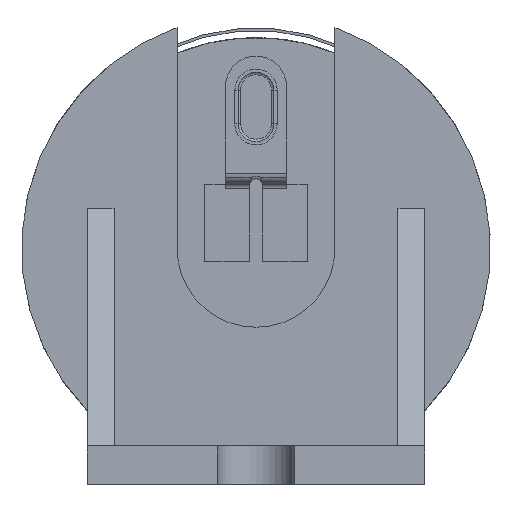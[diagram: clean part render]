
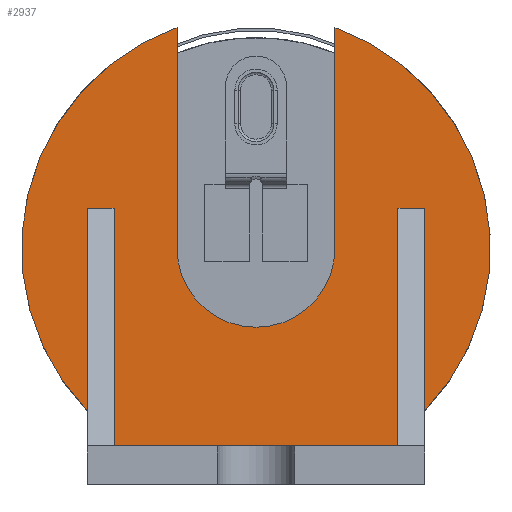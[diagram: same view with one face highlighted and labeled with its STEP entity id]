
A CAD part, left-side view. The second image highlights one B-rep face of the part: STEP entity #2937.
In plain terms, the highlighted planar face has unit normal (-1, 0, 0).
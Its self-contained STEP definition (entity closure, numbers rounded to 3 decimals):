
#385=DIRECTION('',(0.,0.,1.));
#386=VECTOR('',#385,17.183);
#387=CARTESIAN_POINT('',(4.4,6.15,18.388));
#388=LINE('',#387,#386);
#407=DIRECTION('',(0.,0.,-1.));
#408=VECTOR('',#407,17.183);
#409=CARTESIAN_POINT('',(4.4,-6.15,35.57));
#410=LINE('',#409,#408);
#590=DIRECTION('',(0.,0.,-1.));
#591=VECTOR('',#590,15.767);
#592=CARTESIAN_POINT('',(4.4,13.15,21.5));
#593=LINE('',#592,#591);
#602=CARTESIAN_POINT('',(4.4,0.,18.388));
#603=DIRECTION('',(-1.,0.,0.));
#604=DIRECTION('',(0.,1.,0.));
#605=AXIS2_PLACEMENT_3D('',#602,#603,#604);
#607=CARTESIAN_POINT('',(4.4,0.,18.388));
#608=DIRECTION('',(-1.,0.,0.));
#609=DIRECTION('',(0.,-0.721,-0.693));
#610=AXIS2_PLACEMENT_3D('',#607,#608,#609);
#612=CARTESIAN_POINT('',(4.4,0.,18.388));
#613=DIRECTION('',(-1.,0.,0.));
#614=DIRECTION('',(0.,0.337,0.942));
#615=AXIS2_PLACEMENT_3D('',#612,#613,#614);
#625=DIRECTION('',(0.,0.,-1.));
#626=VECTOR('',#625,15.767);
#627=CARTESIAN_POINT('',(4.4,-13.15,21.5));
#628=LINE('',#627,#626);
#687=DIRECTION('',(0.,-1.,0.));
#688=VECTOR('',#687,22.1);
#689=CARTESIAN_POINT('',(4.4,11.05,3.));
#690=LINE('',#689,#688);
#691=DIRECTION('',(0.,-1.,0.));
#692=VECTOR('',#691,2.1);
#693=CARTESIAN_POINT('',(4.4,13.15,21.5));
#694=LINE('',#693,#692);
#699=DIRECTION('',(0.,0.,1.));
#700=VECTOR('',#699,18.5);
#701=CARTESIAN_POINT('',(4.4,11.05,3.));
#702=LINE('',#701,#700);
#711=DIRECTION('',(0.,0.,-1.));
#712=VECTOR('',#711,18.5);
#713=CARTESIAN_POINT('',(4.4,-11.05,21.5));
#714=LINE('',#713,#712);
#715=DIRECTION('',(0.,-1.,0.));
#716=VECTOR('',#715,2.1);
#717=CARTESIAN_POINT('',(4.4,-11.05,21.5));
#718=LINE('',#717,#716);
#1661=CARTESIAN_POINT('',(4.4,6.15,18.388));
#1662=CARTESIAN_POINT('',(4.4,6.15,35.57));
#1663=VERTEX_POINT('',#1661);
#1664=VERTEX_POINT('',#1662);
#1665=CARTESIAN_POINT('',(4.4,13.15,5.733));
#1666=VERTEX_POINT('',#1665);
#1667=CARTESIAN_POINT('',(4.4,13.15,21.5));
#1668=VERTEX_POINT('',#1667);
#1669=CARTESIAN_POINT('',(4.4,11.05,21.5));
#1670=VERTEX_POINT('',#1669);
#1671=CARTESIAN_POINT('',(4.4,11.05,3.));
#1672=VERTEX_POINT('',#1671);
#1673=CARTESIAN_POINT('',(4.4,-11.05,3.));
#1674=VERTEX_POINT('',#1673);
#1675=CARTESIAN_POINT('',(4.4,-11.05,21.5));
#1676=VERTEX_POINT('',#1675);
#1677=CARTESIAN_POINT('',(4.4,-13.15,21.5));
#1678=VERTEX_POINT('',#1677);
#1679=CARTESIAN_POINT('',(4.4,-13.15,5.733));
#1680=VERTEX_POINT('',#1679);
#1681=CARTESIAN_POINT('',(4.4,-6.15,35.57));
#1682=VERTEX_POINT('',#1681);
#1683=CARTESIAN_POINT('',(4.4,-6.15,18.388));
#1684=VERTEX_POINT('',#1683);
#2910=CARTESIAN_POINT('',(4.4,0.,19.285));
#2911=DIRECTION('',(1.,0.,0.));
#2912=DIRECTION('',(0.,1.,0.));
#2913=AXIS2_PLACEMENT_3D('',#2910,#2911,#2912);
#2914=PLANE('',#2913);
#2915=ORIENTED_EDGE('',*,*,#2528,.F.);
#2917=ORIENTED_EDGE('',*,*,#2916,.T.);
#2918=ORIENTED_EDGE('',*,*,#2564,.F.);
#2919=ORIENTED_EDGE('',*,*,#2786,.F.);
#2921=ORIENTED_EDGE('',*,*,#2920,.F.);
#2923=ORIENTED_EDGE('',*,*,#2922,.F.);
#2925=ORIENTED_EDGE('',*,*,#2924,.T.);
#2927=ORIENTED_EDGE('',*,*,#2926,.F.);
#2929=ORIENTED_EDGE('',*,*,#2928,.T.);
#2931=ORIENTED_EDGE('',*,*,#2930,.F.);
#2932=ORIENTED_EDGE('',*,*,#2897,.T.);
#2934=ORIENTED_EDGE('',*,*,#2933,.F.);
#2935=EDGE_LOOP('',(#2915,#2917,#2918,#2919,#2921,#2923,#2925,#2927,#2929,#2931,
#2932,#2934));
#2936=FACE_OUTER_BOUND('',#2935,.F.);
#606=CIRCLE('',#605,6.15);
#611=CIRCLE('',#610,18.25);
#616=CIRCLE('',#615,18.25);
#2528=EDGE_CURVE('',#1663,#1664,#388,.T.);
#2564=EDGE_CURVE('',#1682,#1684,#410,.T.);
#2786=EDGE_CURVE('',#1680,#1682,#611,.T.);
#2897=EDGE_CURVE('',#1668,#1666,#593,.T.);
#2916=EDGE_CURVE('',#1663,#1684,#606,.T.);
#2920=EDGE_CURVE('',#1678,#1680,#628,.T.);
#2922=EDGE_CURVE('',#1676,#1678,#718,.T.);
#2924=EDGE_CURVE('',#1676,#1674,#714,.T.);
#2926=EDGE_CURVE('',#1672,#1674,#690,.T.);
#2928=EDGE_CURVE('',#1672,#1670,#702,.T.);
#2930=EDGE_CURVE('',#1668,#1670,#694,.T.);
#2933=EDGE_CURVE('',#1664,#1666,#616,.T.);
#2937=ADVANCED_FACE('',(#2936),#2914,.F.);
